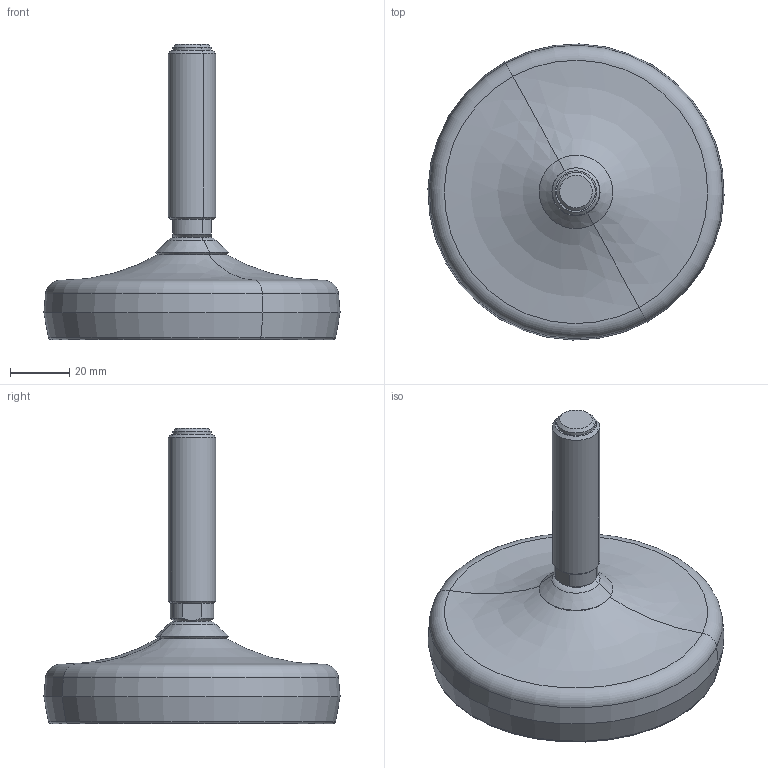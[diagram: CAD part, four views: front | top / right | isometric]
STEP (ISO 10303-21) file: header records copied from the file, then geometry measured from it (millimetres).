
FILE_DESCRIPTION(('CATIA V5 STEP Exchange'),'2;1');
FILE_NAME('X:\CODICI MOVEX\3D per clienti\3D definitivi\Part 900\P92501_01.stp','2016-11-30T16:45:55+00:00',('none'),('none'),'Version 5-6 Release 2012','CATIA V5 STEP AP203','none');
FILE_SCHEMA(('CONFIG_CONTROL_DESIGN'));
Length unit declared in the file: millimetre
Products named in the file (1): P92501_01
Assembly tree (3 placements, depth 2):
  P92501_01
    #58
    #1035
    #2083
Bounding box: 99.97 x 99.97 x 99.62 mm (x, y, z)
Volume: 180451.3 mm3; surface area: 46876.9 mm2
Topology: 4 solids, 4 shells, 99 faces, 197 edges, 117 vertices
Faces by surface type: cone 34, plane 23, cylinder 18, torus 18, revolution 6
Entity records: 2407 total; most frequent: CARTESIAN_POINT 419, ORIENTED_EDGE 394, DIRECTION 328, AXIS2_PLACEMENT_3D 204, EDGE_CURVE 197, CIRCLE 139, VERTEX_POINT 117, EDGE_LOOP 114
